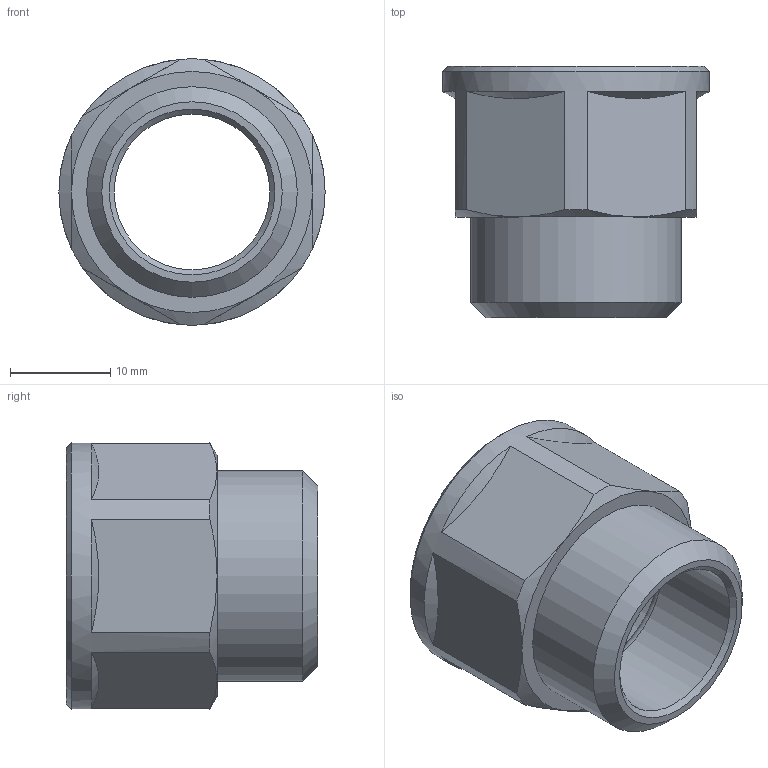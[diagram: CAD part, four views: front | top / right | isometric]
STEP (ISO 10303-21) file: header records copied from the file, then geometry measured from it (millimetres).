
FILE_DESCRIPTION(('STEP AP203'), '1');
FILE_NAME('ÂÐ.753128.015 - VTr.197.N.0415 Ôèò. ðåçüá. óäë', '2024-06-27T05:51:24', ('Boss'), (''), 'C3D Converter', 'C3D Toolkit', '');
FILE_SCHEMA(('CONFIG_CONTROL_DESIGN'));
Length unit declared in the file: millimetre
Products named in the file (1): ВР.753128.015
Bounding box: 26.5 x 25 x 26.5 mm (x, y, z)
Volume: 4957.5 mm3; surface area: 3748.9 mm2
Topology: 1 solids, 1 shells, 31 faces, 70 edges, 43 vertices
Faces by surface type: cone 16, plane 10, cylinder 4, torus 1
Full cylindrical faces by diameter (mm): 15.5 x1, 18.632 x1, 20.955 x1, 26.5 x1
Entity records: 1361 total; most frequent: CARTESIAN_POINT 674, DIRECTION 138, ORIENTED_EDGE 122, AXIS2_PLACEMENT_3D 63, EDGE_CURVE 61, VERTEX_POINT 45, EDGE_LOOP 44, ADVANCED_FACE 31
